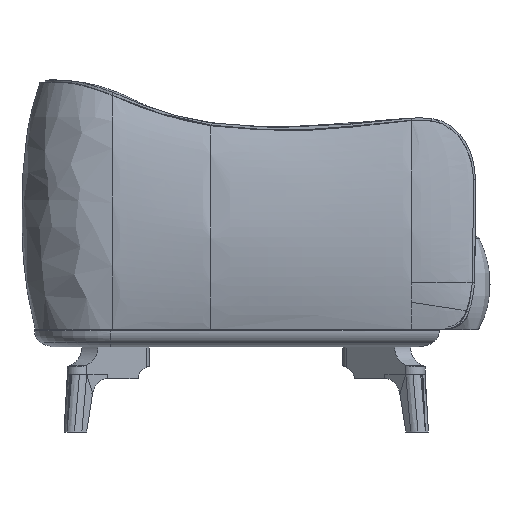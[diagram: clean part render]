
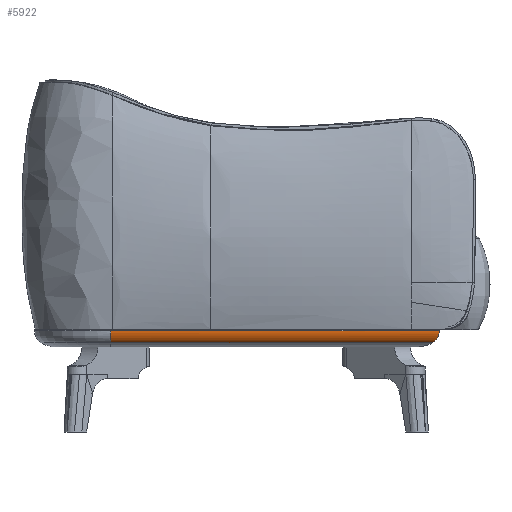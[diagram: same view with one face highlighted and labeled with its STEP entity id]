
A CAD part, left-side view. The second image highlights one B-rep face of the part: STEP entity #5922.
In plain terms, the highlighted cylindrical face has radius 32 mm (diameter 64 mm), a partial arc.
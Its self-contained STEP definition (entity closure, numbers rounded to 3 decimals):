
#111=ELLIPSE('',#6342,45.255,32.);
#144=CYLINDRICAL_SURFACE('',#6341,32.);
#268=CIRCLE('',#6329,32.);
#269=CIRCLE('',#6331,32.);
#517=LINE('',#29997,#937);
#518=LINE('',#29998,#938);
#937=VECTOR('',#6914,10.);
#938=VECTOR('',#6915,10.);
#1476=FACE_OUTER_BOUND('',#1852,.T.);
#1852=EDGE_LOOP('',(#4101,#4102,#4103,#4104,#4105));
#2543=VERTEX_POINT('',#29961);
#2548=VERTEX_POINT('',#29972);
#2549=VERTEX_POINT('',#29976);
#2555=VERTEX_POINT('',#29994);
#2556=VERTEX_POINT('',#29995);
#3135=EDGE_CURVE('',#2548,#2543,#268,.T.);
#3136=EDGE_CURVE('',#2549,#2548,#269,.T.);
#3145=EDGE_CURVE('',#2555,#2556,#111,.T.);
#3146=EDGE_CURVE('',#2556,#2543,#517,.T.);
#3147=EDGE_CURVE('',#2549,#2555,#518,.T.);
#4101=ORIENTED_EDGE('',*,*,#3145,.T.);
#4102=ORIENTED_EDGE('',*,*,#3146,.T.);
#4103=ORIENTED_EDGE('',*,*,#3135,.F.);
#4104=ORIENTED_EDGE('',*,*,#3136,.F.);
#4105=ORIENTED_EDGE('',*,*,#3147,.T.);
#5922=ADVANCED_FACE('',(#1476),#144,.T.);
#6329=AXIS2_PLACEMENT_3D('',#29974,#6885,#6886);
#6331=AXIS2_PLACEMENT_3D('',#29977,#6889,#6890);
#6341=AXIS2_PLACEMENT_3D('',#29993,#6910,#6911);
#6342=AXIS2_PLACEMENT_3D('',#29996,#6912,#6913);
#6885=DIRECTION('center_axis',(0.,1.,0.));
#6886=DIRECTION('ref_axis',(-1.,0.,0.013));
#6889=DIRECTION('center_axis',(0.,1.,0.));
#6890=DIRECTION('ref_axis',(-1.,0.,0.));
#6910=DIRECTION('center_axis',(0.,-1.,0.));
#6911=DIRECTION('ref_axis',(-1.,0.,0.));
#6912=DIRECTION('center_axis',(-0.707,0.707,0.));
#6913=DIRECTION('ref_axis',(-0.707,-0.707,0.));
#6914=DIRECTION('',(0.,1.,0.));
#6915=DIRECTION('',(0.,-1.,0.));
#29961=CARTESIAN_POINT('',(556.603,5286.721,238.986));
#29972=CARTESIAN_POINT('',(556.601,5286.721,238.584));
#29974=CARTESIAN_POINT('Origin',(588.601,5286.721,238.584));
#29976=CARTESIAN_POINT('',(571.043,5286.721,211.831));
#29977=CARTESIAN_POINT('Origin',(588.601,5286.721,238.584));
#29993=CARTESIAN_POINT('Origin',(588.601,4491.847,238.584));
#29994=CARTESIAN_POINT('',(571.043,4578.659,211.831));
#29995=CARTESIAN_POINT('',(556.603,4564.22,238.986));
#29996=CARTESIAN_POINT('Origin',(588.601,4596.217,238.584));
#29997=CARTESIAN_POINT('',(556.603,4564.22,238.986));
#29998=CARTESIAN_POINT('',(571.043,5286.721,211.831));
